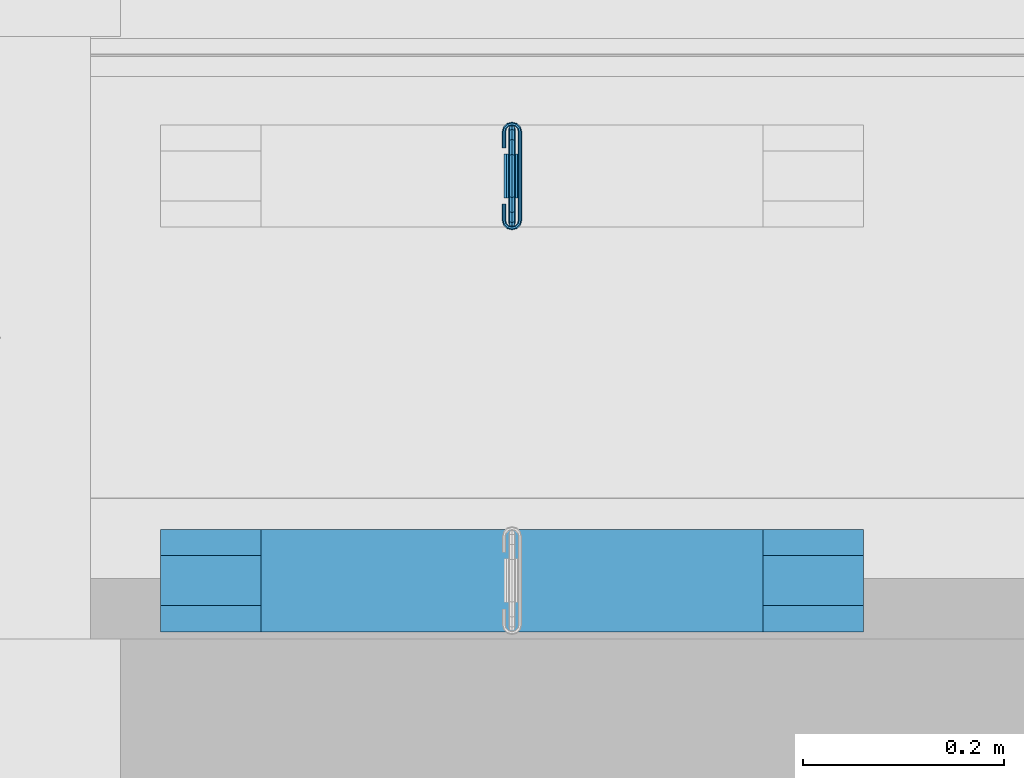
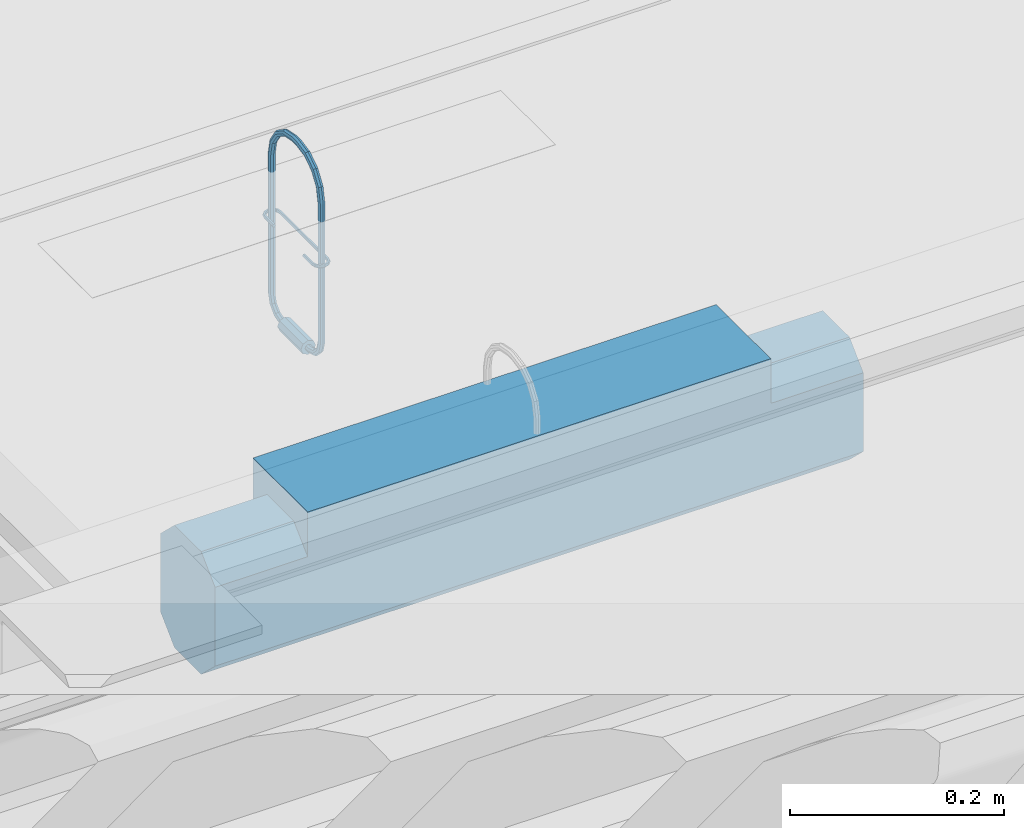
# One storey, part 180 of 230: 2 beams.
"""IFC4X3_ADD2 building model written with IfcOpenShell, lengths in millimetres."""

import ifcopenshell
import ifcopenshell.guid

model = None  # the IFC model being written
_history = None  # IfcOwnerHistory: only IFC2X3 demands one
_inside = {}  # id of a spatial element -> (the spatial element, [elements in it])
_under = {}  # id of a project, library or spatial element -> (it, [spatial elements below it])
_declared = {}  # id of a project -> (the project, [libraries it declares])
_typed = {}  # id of a type object -> (the type object, [elements of that type])
_made_of = {}  # id of a material, layer set ... -> (it, [elements and type objects made of it])


def new_model(schema):
    """Start an empty IFC model of exactly this schema.

    Asked for "IFC4X3", IfcOpenShell would pick the latest addendum, in which some entities
    have other attributes; the version numbers below select the first issue.
    IFC2X3 requires an IfcOwnerHistory on every rooted entity: one is made here for all.
    """
    global model, _history
    if schema == "IFC4X3":
        model = ifcopenshell.file(schema_version=(4, 3, 0, 0))
    else:
        model = ifcopenshell.file(schema=schema)
    _inside.clear()
    _under.clear()
    _declared.clear()
    _typed.clear()
    _made_of.clear()
    _history = None
    if model.schema == "IFC2X3":
        org = make("IfcOrganization", Name="unknown")
        user = make(
            "IfcPersonAndOrganization",
            ThePerson=make("IfcPerson", FamilyName="unknown"),
            TheOrganization=org,
        )
        app = make(
            "IfcApplication",
            ApplicationDeveloper=org,
            Version="unknown",
            ApplicationFullName="unknown",
            ApplicationIdentifier="unknown",
        )
        _history = make(
            "IfcOwnerHistory",
            OwningUser=user,
            OwningApplication=app,
            ChangeAction="ADDED",
            CreationDate=0,
        )
    return model


def make(cls, **values):
    """One entity of the class cls with the attributes given. An attribute that is None is left unset."""
    return model.create_entity(
        cls, **{name: value for name, value in values.items() if value is not None}
    )


def rooted(cls, **values):
    """An entity with a GlobalId (a new one), such as an element, a storey or a relation."""
    return make(cls, GlobalId=ifcopenshell.guid.new(), OwnerHistory=_history, **values)


def si_unit(unit_type, name, prefix=None):
    """IfcSIUnit, for example si_unit("LENGTHUNIT", "METRE", prefix="MILLI")."""
    return make("IfcSIUnit", UnitType=unit_type, Prefix=prefix, Name=name)


def assignment(units):
    """IfcUnitAssignment: the units of a project."""
    return None if units is None else make("IfcUnitAssignment", Units=units)


def point(xyz):
    """IfcCartesianPoint."""
    return None if xyz is None else make("IfcCartesianPoint", Coordinates=xyz)


def direction(xyz):
    """IfcDirection."""
    return None if xyz is None else make("IfcDirection", DirectionRatios=xyz)


def frame(location, z_axis=None, x_axis=None):
    """IfcAxis2Placement3D, a coordinate frame: its origin and axes. An axis left out is left unset."""
    return make(
        "IfcAxis2Placement3D",
        Location=point(location),
        Axis=direction(z_axis),
        RefDirection=direction(x_axis),
    )


def origin_with_axes():
    """The frame at (0, 0, 0) with the z axis (0, 0, 1) and the x axis (1, 0, 0) written out."""
    return frame((0.0, 0.0, 0.0), z_axis=(0.0, 0.0, 1.0), x_axis=(1.0, 0.0, 0.0))


def place(relative_to, where):
    """IfcLocalPlacement: puts the frame where relative to a parent placement (None: the world)."""
    return make(
        "IfcLocalPlacement", PlacementRelTo=relative_to, RelativePlacement=where
    )


def context(
    kind, dimensions, precision=None, world=None, true_north=None, identifier=None
):
    """IfcGeometricRepresentationContext, for example the 3D "Model" context."""
    return make(
        "IfcGeometricRepresentationContext",
        ContextIdentifier=identifier,
        ContextType=kind,
        CoordinateSpaceDimension=dimensions,
        Precision=precision,
        WorldCoordinateSystem=world,
        TrueNorth=true_north,
    )


def subcontext(parent, identifier, kind, view, scale=None):
    """IfcGeometricRepresentationSubContext, for example "Body" below "Model"."""
    return make(
        "IfcGeometricRepresentationSubContext",
        ContextIdentifier=identifier,
        ContextType=kind,
        ParentContext=parent,
        TargetScale=scale,
        TargetView=view,
    )


def project(units=None, contexts=None):
    """IfcProject with its units and contexts."""
    return rooted(
        "IfcProject",
        Name="project",
        RepresentationContexts=contexts,
        UnitsInContext=assignment(units),
    )


def spatial(cls, under=None, at=None, **own):
    """A site, building, storey or space (cls), placed at a placement, below another one or the project."""
    s = rooted(cls, ObjectPlacement=at, **own)
    if under is not None:
        _under.setdefault(under.id(), (under, []))[1].append(s)
    return s


def point_list(points):
    """IfcCartesianPointList2D or 3D."""
    cls = (
        "IfcCartesianPointList2D" if len(points[0]) == 2 else "IfcCartesianPointList3D"
    )
    return make(cls, CoordList=points)


def triangles(points, corners, closed=None, point_numbers=None):
    """IfcTriangulatedFaceSet: each triangle names its three corners, points numbered from 1."""
    return make(
        "IfcTriangulatedFaceSet",
        Coordinates=point_list(points),
        Closed=closed,
        CoordIndex=corners,
        PnIndex=point_numbers,
    )


def polygons(points, faces, closed=None, point_numbers=None):
    """IfcPolygonalFaceSet: a face is its outer loop, then its inner loops; points numbered from 1."""
    made = []
    for loops in faces:
        if len(loops) == 1:
            made.append(make("IfcIndexedPolygonalFace", CoordIndex=loops[0]))
        else:
            made.append(
                make(
                    "IfcIndexedPolygonalFaceWithVoids",
                    CoordIndex=loops[0],
                    InnerCoordIndices=loops[1:],
                )
            )
    return make(
        "IfcPolygonalFaceSet",
        Coordinates=point_list(points),
        Closed=closed,
        Faces=made,
        PnIndex=point_numbers,
    )


def shape(context_of_items, identifier, shape_type, items):
    """IfcShapeRepresentation: the items that make up one representation, for example the "Body"."""
    return make(
        "IfcShapeRepresentation",
        ContextOfItems=context_of_items,
        RepresentationIdentifier=identifier,
        RepresentationType=shape_type,
        Items=items,
    )


def made_of(thing, what):
    """Note that an element or type object is made of a material, layer set ...; save() writes the relation."""
    if what is not None:
        _made_of.setdefault(what.id(), (what, []))[1].append(thing)
    return thing


def element(
    cls,
    number,
    at=None,
    inside=None,
    cuts=None,
    type_object=None,
    material=None,
    context=None,
    identifier="Body",
    shape_type=None,
    held_by="IfcProductDefinitionShape",
    body=None,
    shapes=None,
    **own,
):
    """One element of the class cls, such as IfcWall. Its Tag is "e" and its number.

    at: its placement. inside: the storey or other place that contains it. cuts: it is an
    opening in that element (IfcRelVoidsElement). A single representation is given by context,
    identifier, shape_type and body (its items); several are given by shapes. held_by: the class
    of the entity that holds the representations. save() writes the other relations.
    """
    e = rooted(cls, Tag="e%d" % number, ObjectPlacement=at, **own)
    if body is not None:
        shapes = [shape(context, identifier, shape_type, body)]
    if shapes is not None:
        e.Representation = make(held_by, Representations=shapes)
    if inside is not None:
        _inside.setdefault(inside.id(), (inside, []))[1].append(e)
    if cuts is not None:
        rooted(
            "IfcRelVoidsElement", RelatingBuildingElement=cuts, RelatedOpeningElement=e
        )
    if type_object is not None:
        _typed.setdefault(type_object.id(), (type_object, []))[1].append(e)
    return made_of(e, material)


def aggregate(whole, parts):
    """IfcRelAggregates: a whole, such as a stair, and the parts it consists of."""
    return rooted("IfcRelAggregates", RelatingObject=whole, RelatedObjects=parts)


def save(model, path):
    """Write the relations noted so far, then the file.

    IfcRelAggregates (storeys below a building ...), IfcRelContainedInSpatialStructure (elements
    in a storey), IfcRelDefinesByType, IfcRelAssociatesMaterial and IfcRelDeclares: one each for
    every whole, place, type object, material and project.
    """
    for whole, parts in _under.values():
        aggregate(whole, parts)
    for where, things in _inside.values():
        rooted(
            "IfcRelContainedInSpatialStructure",
            RelatedElements=things,
            RelatingStructure=where,
        )
    for kind, things in _typed.values():
        rooted("IfcRelDefinesByType", RelatedObjects=things, RelatingType=kind)
    for what, things in _made_of.values():
        rooted("IfcRelAssociatesMaterial", RelatedObjects=things, RelatingMaterial=what)
    for by, libraries in _declared.values():
        rooted("IfcRelDeclares", RelatingContext=by, RelatedDefinitions=libraries)
    model.write(path)


model = new_model("IFC4X3_ADD2")

# Units and contexts
model_context = context("Model", 3, precision=1e-05, world=origin_with_axes(), true_north=direction((0.0, 1.0)))
body_context = subcontext(model_context, "Body", "Model", "MODEL_VIEW")
ifc_project = project(units=[si_unit("LENGTHUNIT", "METRE", prefix="MILLI"), si_unit("AREAUNIT", "SQUARE_METRE"), si_unit("VOLUMEUNIT", "CUBIC_METRE"), si_unit("PLANEANGLEUNIT", "RADIAN"), si_unit("TIMEUNIT", "SECOND"), si_unit("MASSUNIT", "GRAM")], contexts=[model_context])

# Site, building, storey
site_placement = place(None, origin_with_axes())
site = spatial("IfcSite", under=ifc_project, at=site_placement, Name="Site", CompositionType="ELEMENT")
building_placement = place(site_placement, origin_with_axes())
building = spatial("IfcBuilding", under=site, at=building_placement, Name="IFC Building Story")
storey_placement = place(building_placement, origin_with_axes())
storey = spatial("IfcBuildingStorey", under=building, at=storey_placement, Name="ETAGE 00 (0)", Elevation=0.0)

# Beams
beam_1_placement = place(storey_placement, origin_with_axes())
element("IfcBeam", 1, at=beam_1_placement, inside=storey, Name="LU2", ObjectType="D7", context=body_context, shape_type="Tessellation", body=[
    triangles([(44588.66440429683, 886.5000314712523, 4036.025157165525), (44588.66440429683, 883.0000270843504, 4036.025157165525), (44586.19013671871, 886.5000314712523, 4034.999929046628), (44586.19013671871, 883.0000270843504, 4034.999929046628), (44589.6875976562, 886.5000314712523, 4038.500006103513), (44589.6875976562, 883.0000270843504, 4038.500006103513), (44588.66440429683, 883.0000270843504, 4040.974855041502), (44588.66440429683, 886.5000314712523, 4040.974855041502), (44586.19013671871, 883.0000270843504, 4042.000083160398), (44586.19013671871, 886.5000314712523, 4042.000083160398), (44583.71586914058, 883.0000270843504, 4040.974855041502), (44583.71586914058, 886.5000314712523, 4040.974855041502), (44582.6880249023, 883.0000270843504, 4038.500006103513), (44582.6880249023, 886.5000314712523, 4038.500006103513), (44583.71586914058, 886.5000314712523, 4036.025157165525), (44583.71586914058, 883.0000270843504, 4036.025157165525), (44586.19013671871, 898.7500104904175, 4038.282286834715), (44583.71586914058, 898.2374691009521, 4039.170023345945), (44586.19013671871, 907.7176317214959, 4047.250053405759), (44583.71586914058, 906.829822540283, 4047.762522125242), (44588.66440429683, 906.829822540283, 4047.762522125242), (44588.66440429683, 898.2374691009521, 4039.170023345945), (44589.6875976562, 904.6865667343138, 4048.999946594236), (44589.6875976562, 897.0000446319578, 4041.313497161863), (44588.66440429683, 895.7625474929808, 4043.456680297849), (44588.66440429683, 902.5432382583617, 4050.237371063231), (44586.19013671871, 895.2500061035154, 4044.34441680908), (44586.19013671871, 901.6554290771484, 4050.750130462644), (44583.71586914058, 902.5432382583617, 4050.237371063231), (44583.71586914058, 895.7625474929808, 4043.456680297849), (44582.6880249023, 904.6865667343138, 4048.999946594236), (44582.6880249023, 897.0000446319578, 4041.313497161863), (44583.71586914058, 909.9749067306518, 4059.499887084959), (44582.6880249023, 907.499985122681, 4059.499887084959), (44586.19013671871, 910.999989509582, 4059.499887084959), (44588.66440429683, 909.9749067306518, 4059.499887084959), (44589.6875976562, 907.499985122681, 4059.499887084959), (44588.66440429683, 905.0251361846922, 4059.499887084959), (44586.19013671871, 904.0000534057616, 4059.499887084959), (44583.71586914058, 905.0251361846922, 4059.499887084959), (44583.71586914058, 905.0251361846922, 4218.50006561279), (44582.6880249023, 907.499985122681, 4218.50006561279), (44583.71586914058, 901.940368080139, 4234.008421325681), (44582.6880249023, 904.2268564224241, 4234.955456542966), (44583.71586914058, 893.1555845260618, 4247.155583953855), (44582.6880249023, 894.9056230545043, 4248.905477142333), (44583.71586914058, 896.6555889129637, 4250.65566101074), (44583.71586914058, 906.5133447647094, 4235.902491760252), (44586.19013671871, 897.3804719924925, 4251.38032608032), (44586.19013671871, 907.460452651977, 4236.294909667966), (44588.66440429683, 896.6555889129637, 4250.65566101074), (44588.66440429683, 906.5133447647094, 4235.902491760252), (44589.6875976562, 894.9056230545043, 4248.905477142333), (44589.6875976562, 904.2268564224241, 4234.955456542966), (44588.66440429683, 901.940368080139, 4234.008421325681), (44588.66440429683, 893.1555845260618, 4247.155583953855), (44586.19013671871, 900.9932601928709, 4233.616003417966), (44586.19013671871, 892.430701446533, 4246.430628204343), (44586.19013671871, 879.6160039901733, 4254.993186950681), (44583.71586914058, 880.0083492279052, 4255.940222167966), (44582.6880249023, 880.9553844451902, 4258.226710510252), (44583.71586914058, 881.9024923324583, 4260.513198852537), (44586.19013671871, 882.2947649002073, 4261.460524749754), (44588.66440429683, 881.9024923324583, 4260.513198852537), (44589.6875976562, 880.9553844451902, 4258.226710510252), (44588.66440429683, 880.0083492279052, 4255.940222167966), (44588.66440429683, 864.4999935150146, 4259.025208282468), (44586.19013671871, 864.4999935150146, 4257.999980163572), (44583.71586914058, 864.4999935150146, 4259.025208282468), (44582.6880249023, 864.4999935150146, 4261.500057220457), (44583.71586914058, 864.4999935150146, 4263.974906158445), (44586.19013671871, 864.4999935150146, 4265.000134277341), (44588.66440429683, 864.4999935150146, 4263.974906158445), (44589.6875976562, 864.4999935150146, 4261.500057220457), (44589.6875976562, 857.4999847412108, 4261.500057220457), (44588.66440429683, 857.4999847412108, 4259.025208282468), (44589.6875976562, 841.0446664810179, 4258.226710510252), (44588.66440429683, 841.9917016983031, 4255.940222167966), (44589.6875976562, 827.0944278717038, 4248.905477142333), (44588.66440429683, 828.8443937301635, 4247.155583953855), (44586.19013671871, 842.384046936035, 4254.993186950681), (44586.19013671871, 829.5692768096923, 4246.430628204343), (44583.71586914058, 828.8443937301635, 4247.155583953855), (44583.71586914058, 841.9917016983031, 4255.940222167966), (44582.6880249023, 827.0944278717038, 4248.905477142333), (44582.6880249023, 841.0446664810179, 4258.226710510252), (44583.71586914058, 825.3444620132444, 4250.65566101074), (44583.71586914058, 840.0975585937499, 4260.513198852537), (44586.19013671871, 824.6195789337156, 4251.38032608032), (44586.19013671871, 839.7052133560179, 4261.460524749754), (44588.66440429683, 825.3444620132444, 4250.65566101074), (44588.66440429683, 840.0975585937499, 4260.513198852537), (44589.6875976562, 817.773194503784, 4234.955456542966), (44588.66440429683, 815.4867061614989, 4235.902491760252), (44588.66440429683, 820.0596828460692, 4234.008421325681), (44586.19013671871, 821.0067907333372, 4233.616003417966), (44583.71586914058, 820.0596828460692, 4234.008421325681), (44582.6880249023, 817.773194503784, 4234.955456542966), (44583.71586914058, 815.4867061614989, 4235.902491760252), (44586.19013671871, 814.5395982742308, 4236.294909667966), (44588.66440429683, 812.0251441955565, 4218.50006561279), (44586.19013671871, 810.9999887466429, 4218.50006561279), (44589.6875976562, 814.4999931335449, 4218.50006561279), (44588.66440429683, 816.974914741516, 4218.50006561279), (44586.19013671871, 817.9999975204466, 4218.50006561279), (44583.71586914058, 816.974914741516, 4218.50006561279), (44582.6880249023, 814.4999931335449, 4218.50006561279), (44583.71586914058, 812.0251441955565, 4218.50006561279), (44586.19013671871, 810.9999887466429, 4059.499887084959), (44583.71586914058, 812.0251441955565, 4059.499887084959), (44586.19013671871, 814.2824192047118, 4047.250053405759), (44583.71586914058, 815.1701557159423, 4047.762522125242), (44586.19013671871, 823.2500404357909, 4038.282286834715), (44583.71586914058, 823.7625818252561, 4039.170023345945), (44588.66440429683, 823.7625818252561, 4039.170023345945), (44588.66440429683, 815.1701557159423, 4047.762522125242), (44589.6875976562, 825.0000062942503, 4041.313497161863), (44589.6875976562, 817.3134841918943, 4048.999946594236), (44588.66440429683, 819.4568126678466, 4050.237371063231), (44588.66440429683, 826.2374307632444, 4043.456680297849), (44586.19013671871, 820.3445491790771, 4050.750130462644), (44586.19013671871, 826.7500448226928, 4044.34441680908), (44583.71586914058, 826.2374307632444, 4043.456680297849), (44583.71586914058, 819.4568126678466, 4050.237371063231), (44582.6880249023, 825.0000062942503, 4041.313497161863), (44582.6880249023, 817.3134841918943, 4048.999946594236), (44583.71586914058, 835.5000194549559, 4036.025157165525), (44582.6880249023, 835.5000194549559, 4038.500006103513), (44586.19013671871, 835.5000194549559, 4034.999929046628), (44588.66440429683, 835.5000194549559, 4036.025157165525), (44589.6875976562, 835.5000194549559, 4038.500006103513), (44588.66440429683, 835.5000194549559, 4040.974855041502), (44586.19013671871, 835.5000194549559, 4042.000083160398), (44583.71586914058, 835.5000194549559, 4040.974855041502), (44583.71586914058, 839.0000238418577, 4040.974855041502), (44582.6880249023, 839.0000238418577, 4038.500006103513), (44586.19013671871, 839.0000238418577, 4042.000083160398), (44588.66440429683, 839.0000238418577, 4040.974855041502), (44589.6875976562, 839.0000238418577, 4038.500006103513), (44588.66440429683, 839.0000238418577, 4036.025157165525), (44586.19013671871, 839.0000238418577, 4034.999929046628), (44583.71586914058, 839.0000238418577, 4036.025157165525), (44594.18964843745, 839.0000238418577, 4038.500006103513), (44586.19013671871, 839.0000238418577, 4046.500099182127), (44580.5300170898, 839.0000238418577, 4044.156928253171), (44578.19062499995, 839.0000238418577, 4038.500006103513), (44591.8456054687, 839.0000238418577, 4044.156928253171), (44580.5300170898, 839.0000238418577, 4032.843083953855), (44586.19013671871, 839.0000238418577, 4030.4999130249), (44591.8456054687, 839.0000238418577, 4032.843083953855), (44591.8456054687, 883.0000270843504, 4032.843083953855), (44586.19013671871, 883.0000270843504, 4030.4999130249), (44594.18964843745, 883.0000270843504, 4038.500006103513), (44591.8456054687, 883.0000270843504, 4044.156928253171), (44586.19013671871, 883.0000270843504, 4046.500099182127), (44580.5300170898, 883.0000270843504, 4044.156928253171), (44578.19062499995, 883.0000270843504, 4038.500006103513), (44580.5300170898, 883.0000270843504, 4032.843083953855), (44582.6880249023, 814.4999931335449, 4059.499887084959), (44583.71586914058, 816.974914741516, 4059.499887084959), (44586.19013671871, 817.9999975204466, 4059.499887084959), (44588.66440429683, 816.974914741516, 4059.499887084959), (44589.6875976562, 814.4999931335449, 4059.499887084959), (44588.66440429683, 812.0251441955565, 4059.499887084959), (44588.66440429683, 857.4999847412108, 4263.974906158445), (44586.19013671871, 857.4999847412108, 4265.000134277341), (44583.71586914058, 857.4999847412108, 4263.974906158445), (44582.6880249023, 857.4999847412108, 4261.500057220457), (44583.71586914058, 857.4999847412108, 4259.025208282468), (44586.19013671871, 857.4999847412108, 4257.999980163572), (44586.19013671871, 904.0000534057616, 4218.50006561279), (44588.66440429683, 905.0251361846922, 4218.50006561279), (44589.6875976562, 907.499985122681, 4218.50006561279), (44588.66440429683, 909.9749067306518, 4218.50006561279), (44586.19013671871, 910.999989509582, 4218.50006561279), (44583.71586914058, 909.9749067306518, 4218.50006561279), (44580.0881835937, 905.0600177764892, 4149.999886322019), (44580.0881835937, 889.0000242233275, 4149.999886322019), (44579.13940429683, 905.0600177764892, 4148.354637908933), (44579.13940429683, 889.0000242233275, 4148.354637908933), (44580.88348388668, 908.0300399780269, 4149.999886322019), (44580.06027832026, 908.5050109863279, 4148.354637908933), (44582.58570556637, 911.026950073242, 4148.354637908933), (44583.06009521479, 910.2041805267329, 4149.999886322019), (44582.58570556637, 911.026950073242, 4151.645425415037), (44580.06027832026, 908.5050109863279, 4151.645425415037), (44586.02735595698, 911.9500041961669, 4151.645425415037), (44586.02735595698, 913.8500335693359, 4151.645425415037), (44581.63227539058, 912.6724164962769, 4151.645425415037), (44577.23719482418, 816.940033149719, 4151.645425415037), (44580.06027832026, 813.4950399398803, 4151.645425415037), (44579.13940429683, 816.940033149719, 4151.645425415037), (44577.23719482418, 833.0000267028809, 4151.645425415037), (44578.41851806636, 812.5450252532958, 4151.645425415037), (44579.13940429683, 833.0000267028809, 4151.645425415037), (44581.63227539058, 809.3276344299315, 4151.645425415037), (44586.02735595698, 810.0500467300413, 4151.645425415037), (44582.58570556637, 810.9731008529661, 4151.645425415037), (44586.02735595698, 808.1500173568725, 4151.645425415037), (44577.23719482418, 905.0600177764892, 4151.645425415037), (44578.41851806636, 909.455025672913, 4151.645425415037), (44577.23719482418, 889.0000242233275, 4151.645425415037), (44579.13940429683, 905.0600177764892, 4151.645425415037), (44579.13940429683, 889.0000242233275, 4151.645425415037), (44589.79456787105, 810.9731008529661, 4151.645425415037), (44590.74334716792, 809.3276344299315, 4151.645425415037), (44593.96175537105, 812.5450252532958, 4151.645425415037), (44586.34826660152, 808.1500173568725, 4151.645425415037), (44586.34826660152, 810.0500467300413, 4151.645425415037), (44592.31534423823, 813.4950399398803, 4151.645425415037), (44595.13842773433, 816.940033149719, 4151.645425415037), (44593.24086914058, 816.940033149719, 4151.645425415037), (44593.24086914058, 905.0600177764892, 4151.645425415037), (44590.74334716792, 912.6724164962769, 4151.645425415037), (44589.79456787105, 911.026950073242, 4151.645425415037), (44593.96175537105, 909.455025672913, 4151.645425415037), (44586.34826660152, 913.8500335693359, 4151.645425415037), (44586.34826660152, 911.9500041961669, 4151.645425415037), (44595.13842773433, 905.0600177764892, 4151.645425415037), (44592.31534423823, 908.5050109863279, 4151.645425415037), (44577.23719482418, 833.0000267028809, 4148.354637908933), (44579.13940429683, 833.0000267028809, 4148.354637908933), (44580.0881835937, 833.0000267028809, 4149.999886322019), (44576.2884155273, 833.0000267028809, 4149.999886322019), (44580.0881835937, 816.940033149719, 4149.999886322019), (44579.13940429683, 816.940033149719, 4148.354637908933), (44581.63227539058, 809.3276344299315, 4148.354637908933), (44586.02735595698, 810.0500467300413, 4148.354637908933), (44586.02735595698, 808.1500173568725, 4148.354637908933), (44577.23719482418, 905.0600177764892, 4148.354637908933), (44577.23719482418, 889.0000242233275, 4148.354637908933), (44578.41851806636, 909.455025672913, 4148.354637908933), (44581.63227539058, 912.6724164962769, 4148.354637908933), (44586.02735595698, 911.9500041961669, 4148.354637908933), (44586.02735595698, 913.8500335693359, 4148.354637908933), (44577.23719482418, 816.940033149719, 4148.354637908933), (44580.06027832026, 813.4950399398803, 4148.354637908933), (44578.41851806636, 812.5450252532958, 4148.354637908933), (44582.58570556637, 810.9731008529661, 4148.354637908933), (44589.79456787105, 911.026950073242, 4148.354637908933), (44590.74334716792, 912.6724164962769, 4148.354637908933), (44593.96175537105, 909.455025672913, 4148.354637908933), (44586.34826660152, 913.8500335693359, 4148.354637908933), (44586.34826660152, 911.9500041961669, 4148.354637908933), (44592.31534423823, 908.5050109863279, 4148.354637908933), (44595.13842773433, 905.0600177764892, 4148.354637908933), (44593.24086914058, 905.0600177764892, 4148.354637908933), (44593.24086914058, 816.940033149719, 4148.354637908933), (44590.74334716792, 809.3276344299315, 4148.354637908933), (44589.79456787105, 810.9731008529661, 4148.354637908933), (44593.96175537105, 812.5450252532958, 4148.354637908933), (44586.34826660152, 808.1500173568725, 4148.354637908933), (44586.34826660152, 810.0500467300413, 4148.354637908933), (44595.13842773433, 816.940033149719, 4148.354637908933), (44592.31534423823, 813.4950399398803, 4148.354637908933), (44576.2884155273, 816.940033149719, 4149.999886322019), (44577.59531249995, 812.069981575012, 4149.999886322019), (44581.15788574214, 808.5049375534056, 4149.999886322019), (44586.02735595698, 807.200002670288, 4149.999886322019), (44586.34826660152, 807.200002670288, 4149.999886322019), (44591.21773681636, 808.5049375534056, 4149.999886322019), (44594.78496093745, 812.069981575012, 4149.999886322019), (44596.0872070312, 816.940033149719, 4149.999886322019), (44596.0872070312, 905.0600177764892, 4149.999886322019), (44594.78496093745, 909.929996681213, 4149.999886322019), (44591.21773681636, 913.495113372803, 4149.999886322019), (44586.34826660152, 914.8000482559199, 4149.999886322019), (44586.02735595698, 914.8000482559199, 4149.999886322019), (44581.15788574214, 913.495113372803, 4149.999886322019), (44577.59531249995, 909.929996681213, 4149.999886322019), (44576.2884155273, 905.0600177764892, 4149.999886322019), (44576.2884155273, 889.0000242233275, 4149.999886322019), (44586.02735595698, 910.999989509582, 4149.999886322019), (44586.34826660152, 910.999989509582, 4149.999886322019), (44589.32017822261, 910.2041805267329, 4149.999886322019), (44591.49213867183, 908.0300399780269, 4149.999886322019), (44592.28743896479, 905.0600177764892, 4149.999886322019), (44592.28743896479, 816.940033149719, 4149.999886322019), (44591.49213867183, 813.9700109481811, 4149.999886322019), (44589.32017822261, 811.795797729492, 4149.999886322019), (44586.34826660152, 810.9999887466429, 4149.999886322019), (44586.02735595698, 810.9999887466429, 4149.999886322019), (44583.06009521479, 811.795797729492, 4149.999886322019), (44580.88348388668, 813.9700109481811, 4149.999886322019)], [[1, 2, 3], [4, 3, 2], [5, 6, 1], [2, 1, 6], [6, 5, 7], [8, 7, 5], [7, 8, 9], [10, 9, 8], [9, 10, 11], [12, 11, 10], [11, 12, 13], [14, 13, 12], [15, 16, 14], [13, 14, 16], [3, 4, 15], [16, 15, 4], [17, 3, 18], [15, 18, 3], [19, 17, 20], [18, 20, 17], [21, 22, 17], [17, 19, 21], [23, 24, 22], [22, 21, 23], [24, 23, 25], [26, 25, 23], [25, 26, 27], [28, 27, 26], [27, 28, 29], [29, 30, 27], [30, 29, 31], [31, 32, 30], [20, 18, 31], [32, 31, 18], [33, 20, 34], [31, 34, 20], [35, 19, 33], [20, 33, 19], [36, 21, 19], [19, 35, 36], [37, 23, 21], [21, 36, 37], [23, 37, 26], [38, 26, 37], [26, 38, 28], [39, 28, 38], [28, 39, 40], [40, 29, 28], [29, 40, 34], [34, 31, 29], [40, 41, 42], [42, 34, 40], [41, 43, 44], [44, 42, 41], [43, 45, 46], [46, 44, 43], [47, 48, 46], [44, 46, 48], [49, 50, 47], [48, 47, 50], [51, 52, 50], [50, 49, 51], [53, 54, 52], [52, 51, 53], [54, 53, 55], [56, 55, 53], [55, 56, 57], [58, 57, 56], [57, 58, 45], [45, 43, 57], [58, 59, 60], [60, 45, 58], [45, 60, 61], [61, 46, 45], [62, 47, 61], [46, 61, 47], [63, 49, 62], [47, 62, 49], [64, 51, 49], [49, 63, 64], [65, 53, 51], [51, 64, 65], [53, 65, 56], [66, 56, 65], [56, 66, 58], [59, 58, 66], [66, 67, 59], [68, 59, 67], [59, 68, 69], [69, 60, 59], [60, 69, 70], [70, 61, 60], [71, 62, 70], [61, 70, 62], [72, 63, 71], [62, 71, 63], [73, 64, 63], [63, 72, 73], [74, 65, 64], [64, 73, 74], [65, 74, 66], [67, 66, 74], [74, 75, 67], [76, 67, 75], [75, 77, 76], [78, 76, 77], [77, 79, 78], [80, 78, 79], [78, 80, 81], [82, 81, 80], [81, 82, 83], [83, 84, 81], [84, 83, 85], [85, 86, 84], [87, 88, 85], [86, 85, 88], [89, 90, 87], [88, 87, 90], [91, 92, 90], [90, 89, 91], [79, 77, 92], [92, 91, 79], [93, 79, 91], [91, 94, 93], [79, 93, 80], [95, 80, 93], [80, 95, 82], [96, 82, 95], [82, 96, 97], [97, 83, 82], [83, 97, 98], [98, 85, 83], [99, 87, 98], [85, 98, 87], [100, 89, 99], [87, 99, 89], [94, 91, 89], [89, 100, 94], [101, 94, 100], [100, 102, 101], [103, 93, 94], [94, 101, 103], [93, 103, 95], [104, 95, 103], [95, 104, 96], [105, 96, 104], [96, 105, 106], [106, 97, 96], [97, 106, 107], [107, 98, 97], [108, 99, 107], [98, 107, 99], [102, 100, 108], [99, 108, 100], [109, 102, 110], [108, 110, 102], [111, 109, 112], [110, 112, 109], [113, 111, 114], [112, 114, 111], [115, 116, 111], [111, 113, 115], [117, 118, 116], [116, 115, 117], [118, 117, 119], [120, 119, 117], [119, 120, 121], [122, 121, 120], [121, 122, 123], [123, 124, 121], [124, 123, 125], [125, 126, 124], [114, 112, 125], [126, 125, 112], [127, 114, 128], [125, 128, 114], [129, 113, 127], [114, 127, 113], [130, 115, 113], [113, 129, 130], [131, 117, 115], [115, 130, 131], [117, 131, 120], [132, 120, 131], [120, 132, 122], [133, 122, 132], [122, 133, 134], [134, 123, 122], [123, 134, 128], [128, 125, 123], [134, 135, 136], [136, 128, 134], [133, 137, 134], [135, 134, 137], [132, 138, 137], [137, 133, 132], [131, 139, 132], [138, 132, 139], [139, 131, 130], [130, 140, 139], [140, 130, 141], [129, 141, 130], [141, 129, 127], [127, 142, 141], [142, 127, 136], [128, 136, 127], [138, 139, 143], [135, 137, 144], [144, 145, 135], [146, 136, 135], [146, 135, 145], [147, 137, 138], [137, 147, 144], [138, 143, 147], [148, 136, 146], [142, 149, 141], [142, 136, 148], [148, 149, 142], [150, 143, 139], [139, 140, 150], [141, 150, 140], [150, 141, 149], [151, 150, 152], [149, 152, 150], [153, 143, 151], [150, 151, 143], [143, 153, 147], [154, 147, 153], [147, 154, 144], [155, 144, 154], [144, 155, 145], [156, 145, 155], [145, 156, 146], [157, 146, 156], [158, 148, 157], [146, 157, 148], [152, 149, 158], [148, 158, 149], [11, 13, 157], [7, 9, 155], [155, 154, 7], [153, 6, 7], [153, 7, 154], [156, 9, 11], [9, 156, 155], [11, 157, 156], [151, 6, 153], [2, 152, 4], [2, 6, 151], [151, 152, 2], [158, 157, 13], [13, 16, 158], [4, 158, 16], [158, 4, 152], [112, 110, 126], [159, 126, 110], [160, 124, 126], [126, 159, 160], [161, 121, 124], [124, 160, 161], [162, 119, 161], [121, 161, 119], [163, 118, 162], [119, 162, 118], [118, 163, 164], [164, 116, 118], [116, 164, 109], [109, 111, 116], [164, 101, 102], [102, 109, 164], [163, 103, 164], [101, 164, 103], [103, 163, 104], [162, 104, 163], [104, 162, 105], [161, 105, 162], [105, 161, 160], [160, 106, 105], [106, 160, 159], [159, 107, 106], [110, 108, 107], [107, 159, 110], [77, 75, 165], [165, 92, 77], [92, 165, 166], [166, 90, 92], [90, 166, 88], [167, 88, 166], [88, 167, 86], [168, 86, 167], [169, 84, 86], [86, 168, 169], [170, 81, 84], [84, 169, 170], [76, 78, 170], [81, 170, 78], [67, 76, 68], [170, 68, 76], [68, 170, 169], [169, 69, 68], [69, 169, 168], [168, 70, 69], [167, 71, 70], [70, 168, 167], [166, 72, 71], [71, 167, 166], [165, 73, 166], [72, 166, 73], [75, 74, 165], [73, 165, 74], [171, 57, 43], [43, 41, 171], [172, 55, 171], [57, 171, 55], [173, 54, 172], [55, 172, 54], [54, 173, 174], [174, 52, 54], [52, 174, 175], [175, 50, 52], [50, 175, 48], [176, 48, 175], [48, 176, 44], [42, 44, 176], [176, 33, 34], [34, 42, 176], [175, 35, 176], [33, 176, 35], [174, 36, 35], [35, 175, 174], [173, 37, 174], [36, 174, 37], [37, 173, 38], [172, 38, 173], [38, 172, 39], [171, 39, 172], [39, 171, 41], [41, 40, 39], [18, 15, 32], [14, 32, 15], [12, 30, 32], [32, 14, 12], [10, 27, 30], [30, 12, 10], [8, 25, 10], [27, 10, 25], [5, 24, 8], [25, 8, 24], [24, 5, 1], [1, 22, 24], [22, 1, 3], [3, 17, 22], [177, 178, 179], [180, 179, 178], [181, 177, 179], [179, 182, 181], [183, 184, 181], [181, 182, 183], [184, 185, 181], [186, 181, 185], [187, 188, 189], [190, 191, 192], [190, 192, 193], [190, 194, 191], [195, 193, 192], [196, 197, 198], [198, 191, 194], [199, 197, 196], [196, 198, 194], [200, 186, 201], [202, 203, 200], [204, 203, 202], [200, 203, 186], [185, 189, 201], [201, 186, 185], [189, 185, 187], [205, 206, 207], [197, 199, 208], [208, 209, 197], [209, 206, 205], [206, 209, 208], [210, 207, 211], [207, 210, 205], [212, 211, 213], [211, 212, 210], [214, 215, 216], [217, 188, 187], [187, 218, 217], [218, 215, 214], [214, 217, 218], [213, 219, 220], [219, 213, 211], [220, 216, 215], [216, 220, 219], [195, 221, 193], [222, 195, 223], [193, 221, 224], [195, 222, 221], [223, 225, 226], [226, 222, 223], [227, 228, 229], [230, 182, 179], [230, 179, 231], [230, 232, 182], [180, 231, 179], [233, 234, 183], [183, 182, 232], [235, 234, 233], [233, 183, 232], [236, 237, 238], [221, 226, 236], [222, 226, 221], [236, 226, 237], [239, 227, 238], [238, 237, 239], [227, 239, 228], [240, 241, 242], [243, 234, 235], [243, 244, 234], [244, 243, 241], [240, 244, 241], [245, 242, 246], [242, 245, 240], [247, 246, 248], [246, 247, 245], [249, 250, 251], [252, 229, 228], [228, 253, 252], [253, 250, 249], [249, 252, 253], [248, 254, 255], [254, 248, 246], [255, 251, 250], [251, 255, 254], [221, 236, 256], [256, 224, 221], [190, 193, 256], [224, 256, 193], [257, 194, 256], [190, 256, 194], [238, 257, 256], [256, 236, 238], [227, 258, 238], [257, 238, 258], [258, 196, 194], [194, 257, 258], [259, 199, 196], [196, 258, 259], [260, 208, 259], [199, 259, 208], [261, 206, 260], [208, 260, 206], [249, 261, 260], [260, 252, 249], [252, 260, 259], [259, 229, 252], [229, 259, 227], [258, 227, 259], [251, 262, 261], [261, 249, 251], [262, 207, 261], [206, 261, 207], [263, 211, 207], [207, 262, 263], [263, 264, 211], [219, 211, 264], [219, 264, 216], [265, 216, 264], [264, 246, 242], [242, 265, 264], [264, 263, 254], [254, 246, 264], [254, 263, 251], [262, 251, 263], [265, 242, 266], [241, 266, 242], [216, 265, 266], [266, 214, 216], [214, 266, 267], [267, 217, 214], [217, 267, 268], [268, 188, 217], [188, 268, 189], [269, 189, 268], [268, 235, 233], [233, 269, 268], [267, 243, 268], [235, 268, 243], [266, 241, 267], [243, 267, 241], [269, 233, 232], [232, 270, 269], [189, 269, 201], [270, 201, 269], [201, 270, 271], [271, 200, 201], [202, 200, 272], [271, 272, 200], [202, 180, 204], [231, 202, 272], [204, 180, 178], [202, 231, 180], [230, 231, 271], [272, 271, 231], [270, 232, 271], [230, 271, 232], [178, 177, 203], [203, 204, 178], [177, 181, 203], [186, 203, 181], [234, 273, 184], [184, 183, 234], [273, 187, 184], [185, 184, 187], [274, 218, 273], [187, 273, 218], [275, 215, 218], [218, 274, 275], [276, 220, 215], [215, 275, 276], [213, 220, 276], [276, 277, 213], [212, 213, 277], [277, 278, 212], [210, 212, 279], [278, 279, 212], [210, 279, 205], [280, 205, 279], [205, 280, 209], [281, 209, 280], [209, 281, 197], [282, 197, 281], [197, 282, 283], [283, 198, 197], [198, 283, 284], [284, 191, 198], [284, 225, 192], [192, 191, 284], [225, 223, 192], [195, 192, 223], [225, 284, 226], [237, 226, 284], [283, 239, 284], [237, 284, 239], [282, 228, 283], [239, 283, 228], [281, 253, 228], [228, 282, 281], [280, 250, 253], [253, 281, 280], [279, 255, 250], [250, 280, 279], [248, 255, 279], [279, 278, 248], [247, 248, 277], [278, 277, 248], [245, 247, 276], [277, 276, 247], [245, 276, 240], [275, 240, 276], [240, 275, 244], [274, 244, 275], [244, 274, 273], [273, 234, 244]]),
])
beam_2_placement = place(storey_placement, origin_with_axes())
element("IfcBeam", 2, at=beam_2_placement, inside=storey, Name="ES44", ObjectType="500*102", context=body_context, shape_type="Tessellation", body=[
    polygons([(44336.18900000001, 509.0000185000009, 4199.9999879), (44336.18900000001, 407.000018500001, 4199.9999879), (44836.18900000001, 407.000018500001, 4199.9999879), (44836.18900000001, 509.0000185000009, 4199.9999879), (44336.18900000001, 509.0000185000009, 4148.9999909), (44336.18900000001, 483.000018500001, 4173.9999909), (44336.18900000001, 433.0000185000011, 4173.9999909), (44336.18900000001, 407.000018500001, 4148.9999909), (44236.18900000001, 407.000018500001, 4148.9999909), (44236.18900000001, 407.000018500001, 4058.999990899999), (44936.18900000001, 407.000018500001, 4058.999990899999), (44936.18900000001, 407.000018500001, 4148.9999909), (44836.18900000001, 407.000018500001, 4148.9999909), (44836.18900000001, 433.000018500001, 4173.9999909), (44836.18900000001, 483.0000185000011, 4173.9999909), (44836.18900000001, 509.0000185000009, 4148.9999909), (44936.18900000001, 509.0000185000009, 4148.9999909), (44936.18900000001, 509.0000185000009, 4058.999990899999), (44236.18900000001, 509.0000185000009, 4058.999990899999), (44236.18900000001, 509.0000185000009, 4148.9999909), (44236.18900000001, 483.000018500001, 4033.9999909), (44236.18900000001, 433.000018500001, 4033.9999909), (44236.18900000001, 433.000018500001, 4173.9999909), (44236.18900000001, 483.000018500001, 4173.9999909), (44936.18900000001, 483.000018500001, 4033.9999909), (44936.18900000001, 483.000018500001, 4173.9999909), (44936.18900000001, 433.000018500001, 4173.9999909), (44936.18900000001, 433.000018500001, 4033.9999909)], [[[1, 2, 3, 4]], [[7, 8, 2]], [[2, 1, 6]], [[2, 6, 7]], [[1, 5, 6]], [[8, 9, 10]], [[13, 3, 2]], [[8, 10, 11]], [[8, 11, 13]], [[13, 2, 8]], [[11, 12, 13]], [[15, 16, 4]], [[4, 3, 14]], [[4, 14, 15]], [[3, 13, 14]], [[16, 17, 18]], [[5, 1, 4]], [[16, 18, 19]], [[16, 19, 5]], [[5, 4, 16]], [[19, 20, 5]], [[21, 22, 10]], [[21, 10, 9]], [[21, 9, 23]], [[21, 23, 24]], [[21, 24, 20]], [[21, 20, 19]], [[25, 18, 17]], [[25, 17, 26]], [[25, 26, 27]], [[25, 27, 12]], [[25, 12, 11]], [[25, 11, 28]], [[22, 21, 25, 28]], [[10, 22, 28, 11]], [[23, 9, 8, 7]], [[24, 23, 7, 6]], [[20, 24, 6, 5]], [[21, 19, 18, 25]], [[27, 26, 15, 14]], [[12, 27, 14, 13]], [[26, 17, 16, 15]]]),
])

save(model, "model.ifc")
